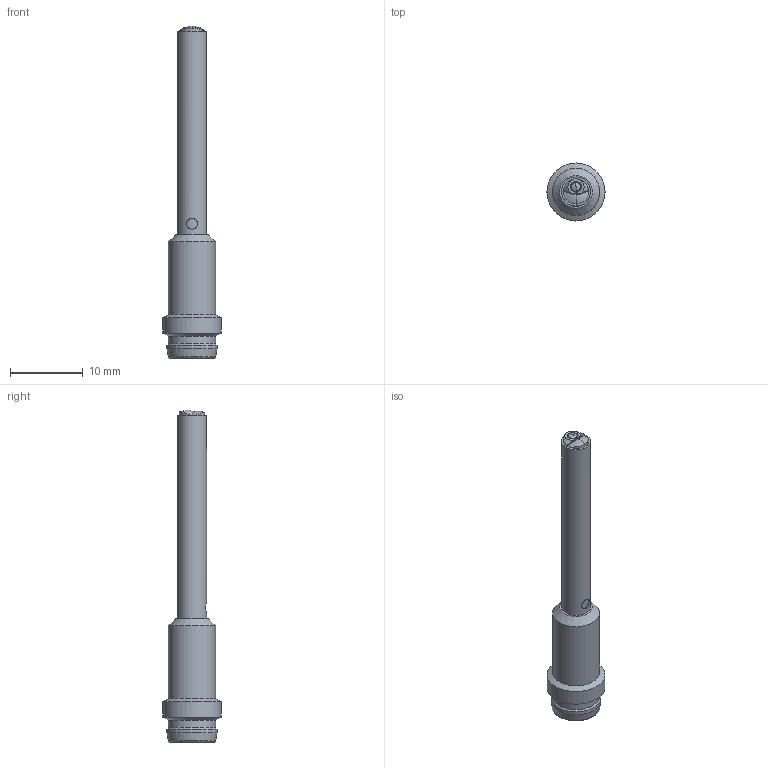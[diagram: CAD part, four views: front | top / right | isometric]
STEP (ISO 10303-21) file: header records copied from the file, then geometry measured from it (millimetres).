
FILE_DESCRIPTION(/* description */ (''),/* implementation_level */ '2;1');
FILE_NAME(/* name */ 'C:\#Vault-WorkDir\Konstruktions-Dokumente\Projekte\Handelsware\FT 04, FT 05\153-13579_FT 04 R-PSL-M3.stp',/* time_stamp */ '2019-02-27T09:12:13+01:00',/* author */ ('SensoPart'),/* organization */ ('SensoPart'),/* preprocessor_version */ 'ST-DEVELOPER v17',/* originating_system */ 'Autodesk Inventor 2018',/* authorisation */ '');
FILE_SCHEMA (('AUTOMOTIVE_DESIGN { 1 0 10303 214 3 1 1 }'));
Length unit declared in the file: millimetre
Products named in the file (1): GH-ENG-0028139
Bounding box: 8 x 8 x 45.76 mm (x, y, z)
Volume: 840.3 mm3; surface area: 932.2 mm2
Topology: 1 solids, 1 shells, 51 faces, 137 edges, 93 vertices
Faces by surface type: cylinder 16, plane 14, cone 8, bspline 8, sphere 3, torus 2
Full cylindrical faces by diameter (mm): 1 x3, 1.25 x1, 1.5 x1, 4 x1, 5.7 x1, 5.8 x1, 6.5 x2, 6.9 x1, 8 x1
Entity records: 6507 total; most frequent: CARTESIAN_POINT 5169, DIRECTION 262, ORIENTED_EDGE 260, EDGE_CURVE 130, AXIS2_PLACEMENT_3D 115, VERTEX_POINT 93, CIRCLE 67, EDGE_LOOP 63
